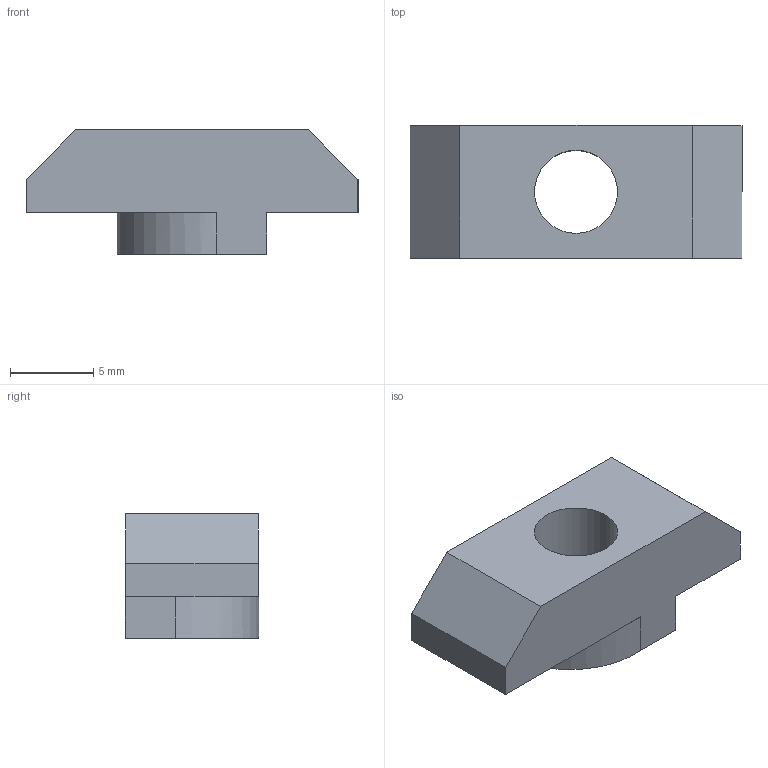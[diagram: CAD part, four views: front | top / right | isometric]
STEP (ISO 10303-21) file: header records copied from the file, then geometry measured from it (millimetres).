
FILE_DESCRIPTION (( 'STEP AP203' ), '1' );
FILE_NAME ('5011.STEP', '2016-04-16T12:04:35', ( '' ), ( '' ), 'SwSTEP 2.0', 'SolidWorks 2014', '' );
FILE_SCHEMA (( 'CONFIG_CONTROL_DESIGN' ));
Length unit declared in the file: millimetre
Products named in the file (1): 5011
Bounding box: 20 x 8.04 x 7.5 mm (x, y, z)
Volume: 729.4 mm3; surface area: 705.9 mm2
Topology: 1 solids, 1 shells, 18 faces, 46 edges, 30 vertices
Faces by surface type: plane 14, cylinder 4
Entity records: 625 total; most frequent: CARTESIAN_POINT 95, DIRECTION 94, ORIENTED_EDGE 92, EDGE_CURVE 46, LINE 36, VECTOR 36, VERTEX_POINT 30, AXIS2_PLACEMENT_3D 29
